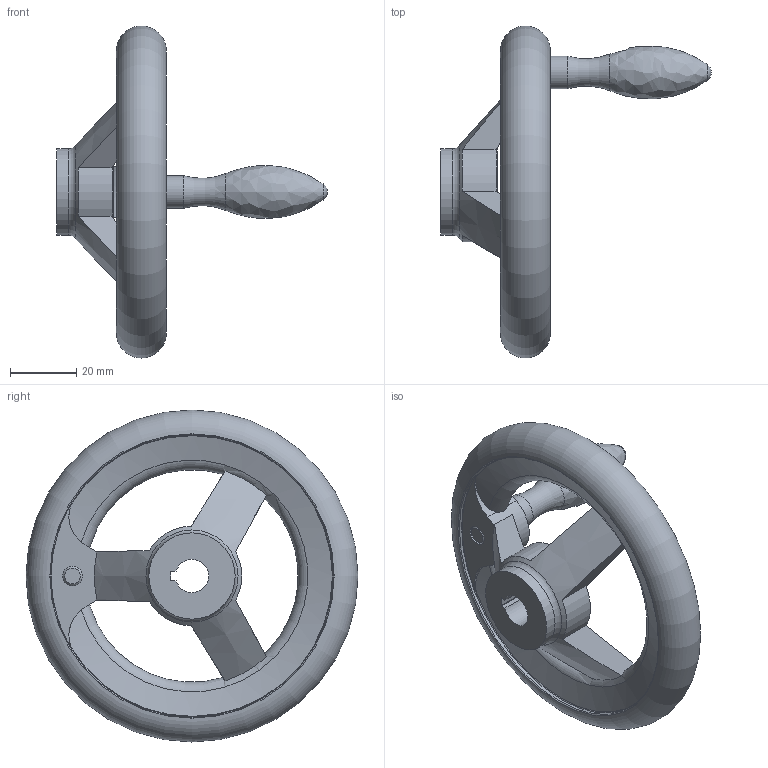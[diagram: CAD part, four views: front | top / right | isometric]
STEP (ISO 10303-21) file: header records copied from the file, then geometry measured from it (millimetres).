
FILE_DESCRIPTION( ( 'STEP AP203' ), '1' );
FILE_NAME( 'C:/Temp/Ganter_Step_05_03_2020/data/1_3/din_950/din_950_k/din_950_k_f/Handwheel DIN 950-AL-100-K10-F.stp', '2020-03-05T10:31:10', ( 'License CC BY-ND 4.0' ), ( 'CADENAS' ), ' ', 'PARTsolutions', ' ' );
FILE_SCHEMA( ( 'CONFIG_CONTROL_DESIGN' ) );
Length unit declared in the file: millimetre
Products named in the file (1): _Handwheel DIN 950-AL-100-K10-F
Bounding box: 81.5 x 100 x 100 mm (x, y, z)
Volume: 70180.1 mm3; surface area: 21272.9 mm2
Topology: 1 solids, 1 shells, 49 faces, 139 edges, 89 vertices
Faces by surface type: cylinder 17, plane 14, torus 11, cone 5, sphere 1, bspline 1
Full cylindrical faces by diameter (mm): 6 x1, 9.8 x1, 26 x2, 85 x2
Entity records: 1799 total; most frequent: CARTESIAN_POINT 625, DIRECTION 224, ORIENTED_EDGE 224, EDGE_CURVE 112, AXIS2_PLACEMENT_3D 100, VERTEX_POINT 83, EDGE_LOOP 73, FACE_OUTER_BOUND 64
